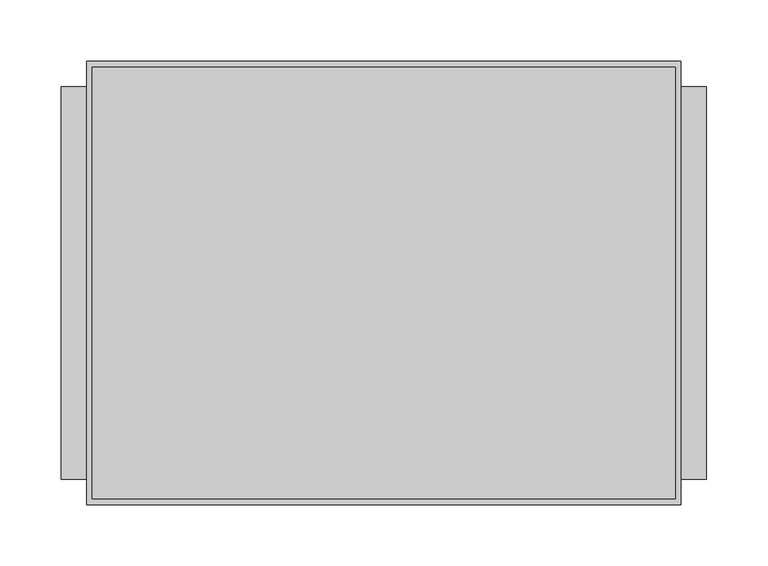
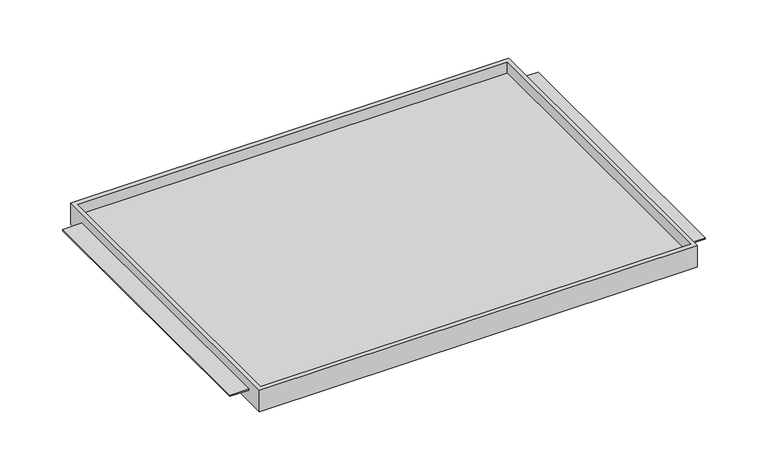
"""IFC4 building model written with IfcOpenShell, lengths in millimetres: furniture geometry."""

from ifc_helpers import new_model, si_unit, origin, place, context, project, spatial, faceted_brep, source, transform, mapped, element, save


def furniture_f6e26599(model_context):
    return source(origin(), model_context, "Body", "Brep", [
        faceted_brep([(-242.7689646, -180.975, 1276.35), (242.7689646, -180.975, 1276.35), (242.7689646, -180.975, 1301.75), (-242.7689646, -180.975, 1301.75), (-242.7689646, 180.975, 1276.35), (-242.7689646, 180.975, 1301.75), (242.7689646, 180.975, 1301.75), (242.7689646, 180.975, 1276.35), (242.7689646, -160.3374879, 1290.6502), (242.7689646, 160.3374879, 1290.6502), (242.7689646, 160.3374879, 1289.05), (242.7689646, -160.3374879, 1289.05), (238.125, -176.2125, 1301.75), (-238.125, -176.2125, 1301.75), (-238.125, 175.91278, 1301.75), (238.125, 175.91278, 1301.75), (-242.7689646, 160.3374879, 1290.6502), (-242.7689646, -160.3374879, 1290.6502), (-242.7689646, -160.3374879, 1289.05), (-242.7689646, 160.3374879, 1289.05), (-238.125, -176.2125, 1289.05), (238.125, -176.2125, 1289.05), (238.125, 175.91278, 1289.05), (-238.125, 175.91278, 1289.05), (-263.525, 160.3374879, 1290.6502), (-263.525, -160.3374879, 1290.6502), (263.525, -160.3374879, 1290.6502), (263.525, 160.3374879, 1290.6502), (-263.525, -160.3374879, 1289.05), (-263.525, 160.3374879, 1289.05), (263.525, -160.3374879, 1289.05), (263.525, 160.3374879, 1289.05)], [[[0, 1, 2, 3]], [[4, 5, 6, 7]], [[1, 0, 4, 7]], [[2, 1, 7, 6], [8, 9, 10, 11]], [[3, 2, 6, 5], [12, 13, 14, 15]], [[0, 3, 5, 4], [16, 17, 18, 19]], [[20, 21, 22, 23]], [[21, 20, 13, 12]], [[22, 21, 12, 15]], [[23, 22, 15, 14]], [[20, 23, 14, 13]], [[16, 24, 25, 17]], [[26, 27, 9, 8]], [[18, 28, 29, 19]], [[30, 11, 10, 31]], [[24, 16, 19, 29]], [[25, 24, 29, 28]], [[17, 25, 28, 18]], [[27, 26, 30, 31]], [[9, 27, 31, 10]], [[26, 8, 11, 30]]]),
    ])


if __name__ == "__main__":
    model = new_model("IFC4")
    model_context = context("Model", 3, world=origin())
    ifc_project = project(units=[si_unit("LENGTHUNIT", "METRE", prefix="MILLI")], contexts=[model_context])
    site = spatial("IfcSite", under=ifc_project)
    building = spatial("IfcBuilding", under=site)
    placement = place(None, origin())
    furniture_shape = furniture_f6e26599(model_context)
    element("IfcFurniture", 1, ObjectType="HermanMiller_CoStruc_CO203_CTrayShelf : 14\"D x 20\"W", at=placement, inside=building, context=model_context, shape_type="MappedRepresentation", body=[
        mapped(furniture_shape, transform((0.0, 0.0, 0.0), x_axis=(1.0, 0.0, 0.0), y_axis=(0.0, 1.0, 0.0), z_axis=(0.0, 0.0, 1.0))),
    ])
    save(model, "model.ifc")
